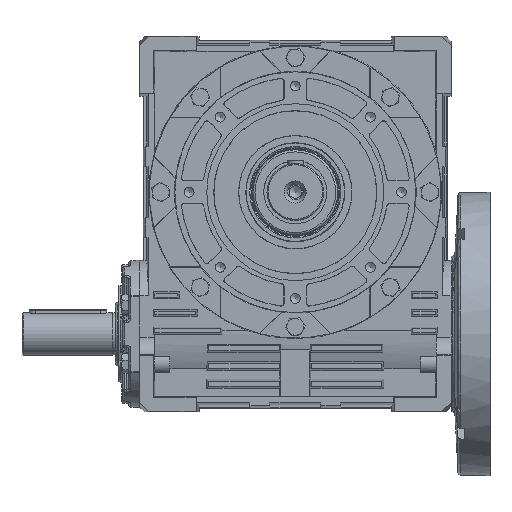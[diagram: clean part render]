
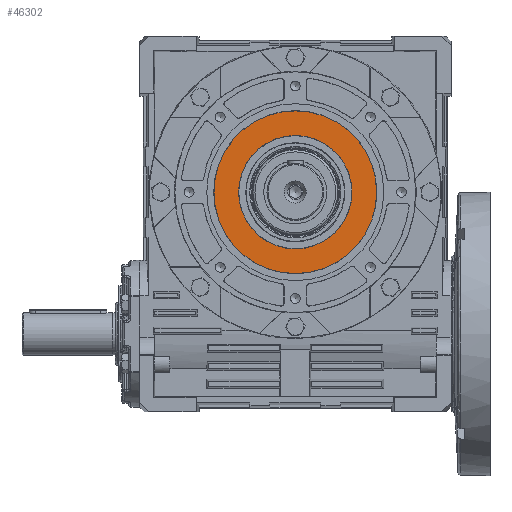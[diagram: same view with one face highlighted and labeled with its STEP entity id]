
A CAD part, top view. The second image highlights one B-rep face of the part: STEP entity #46302.
In plain terms, the highlighted planar face has unit normal (0, 0, 1).
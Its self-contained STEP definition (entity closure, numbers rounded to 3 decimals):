
#1287 = CARTESIAN_POINT ( 'NONE',  ( 0., 0., 120. ) ) ;
#3193 = EDGE_CURVE ( 'NONE', #26104, #26104, #26779, .T. ) ;
#3302 = DIRECTION ( 'NONE',  ( -1., 0., 0. ) ) ;
#4563 = CARTESIAN_POINT ( 'NONE',  ( -80.07, 0., 120. ) ) ;
#5035 = PLANE ( 'NONE',  #26142 ) ;
#8154 = VERTEX_POINT ( 'NONE', #41291 ) ;
#8762 = DIRECTION ( 'NONE',  ( -1., 0., 0. ) ) ;
#11396 = CIRCLE ( 'NONE', #15855, 114.93 ) ;
#11734 = EDGE_LOOP ( 'NONE', ( #38797 ) ) ;
#11754 = CARTESIAN_POINT ( 'NONE',  ( 0., 0., 120. ) ) ;
#15472 = DIRECTION ( 'NONE',  ( -1., 0., 0. ) ) ;
#15855 = AXIS2_PLACEMENT_3D ( 'NONE', #47325, #25556, #3302 ) ;
#18425 = EDGE_LOOP ( 'NONE', ( #46760 ) ) ;
#25556 = DIRECTION ( 'NONE',  ( 0., 0., -1. ) ) ;
#26104 = VERTEX_POINT ( 'NONE', #4563 ) ;
#26142 = AXIS2_PLACEMENT_3D ( 'NONE', #1287, #41749, #8762 ) ;
#26779 = CIRCLE ( 'NONE', #47507, 80.07 ) ;
#37499 = DIRECTION ( 'NONE',  ( 0., 0., -1. ) ) ;
#38797 = ORIENTED_EDGE ( 'NONE', *, *, #3193, .T. ) ;
#41291 = CARTESIAN_POINT ( 'NONE',  ( -114.93, 0., 120. ) ) ;
#41749 = DIRECTION ( 'NONE',  ( 0., 0., -1. ) ) ;
#45029 = EDGE_CURVE ( 'NONE', #8154, #8154, #11396, .T. ) ;
#45480 = FACE_BOUND ( 'NONE', #11734, .T. ) ;
#45484 = FACE_OUTER_BOUND ( 'NONE', #18425, .T. ) ;
#46302 = ADVANCED_FACE ( 'NONE', ( #45484, #45480 ), #5035, .F. ) ;
#46760 = ORIENTED_EDGE ( 'NONE', *, *, #45029, .F. ) ;
#47325 = CARTESIAN_POINT ( 'NONE',  ( 0., 0., 120. ) ) ;
#47507 = AXIS2_PLACEMENT_3D ( 'NONE', #11754, #37499, #15472 ) ;
